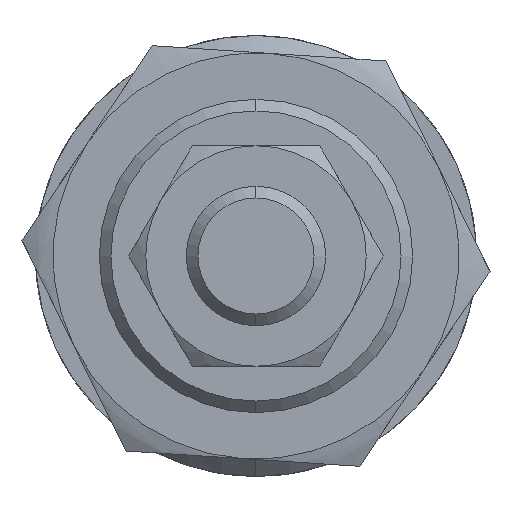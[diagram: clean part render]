
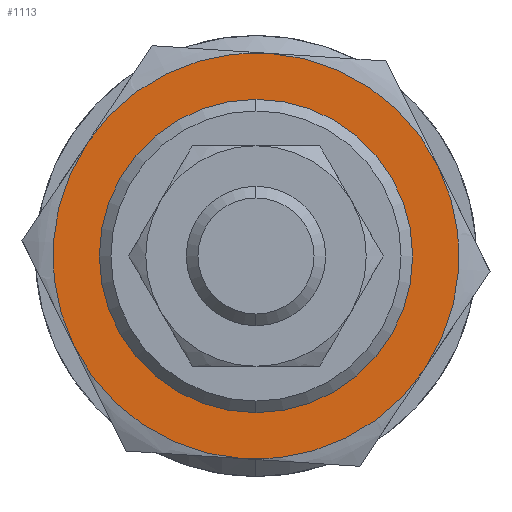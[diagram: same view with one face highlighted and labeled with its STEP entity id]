
A CAD part, left-side view. The second image highlights one B-rep face of the part: STEP entity #1113.
In plain terms, the highlighted planar face has unit normal (-1, 0, 0) as drawn and (0, 0, -1) by its records, which use the part's own axes.
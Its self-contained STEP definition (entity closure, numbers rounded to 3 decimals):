
#81 = CARTESIAN_POINT ( 'NONE',  ( 8.75, 15.155, -5. ) ) ;
#115 = EDGE_CURVE ( 'NONE', #3124, #3001, #226, .T. ) ;
#125 = EDGE_CURVE ( 'NONE', #407, #175, #2932, .T. ) ;
#172 = CIRCLE ( 'NONE', #2543, 17.5 ) ;
#175 = VERTEX_POINT ( 'NONE', #3014 ) ;
#192 = ORIENTED_EDGE ( 'NONE', *, *, #3244, .F. ) ;
#207 = CARTESIAN_POINT ( 'NONE',  ( 0., 0., -5. ) ) ;
#218 = CARTESIAN_POINT ( 'NONE',  ( 0., 0., -5. ) ) ;
#226 = CIRCLE ( 'NONE', #3256, 12.5 ) ;
#227 = AXIS2_PLACEMENT_3D ( 'NONE', #207, #1742, #1474 ) ;
#286 = AXIS2_PLACEMENT_3D ( 'NONE', #2225, #3306, #2538 ) ;
#344 = ORIENTED_EDGE ( 'NONE', *, *, #1718, .T. ) ;
#353 = CARTESIAN_POINT ( 'NONE',  ( 0., 0., -5. ) ) ;
#395 = AXIS2_PLACEMENT_3D ( 'NONE', #353, #1079, #1355 ) ;
#407 = VERTEX_POINT ( 'NONE', #81 ) ;
#420 = FACE_BOUND ( 'NONE', #438, .T. ) ;
#438 = EDGE_LOOP ( 'NONE', ( #344, #2810 ) ) ;
#474 = CARTESIAN_POINT ( 'NONE',  ( -8.75, -15.155, -5. ) ) ;
#484 = CIRCLE ( 'NONE', #286, 12.5 ) ;
#674 = DIRECTION ( 'NONE',  ( 0., 0., 1. ) ) ;
#765 = CIRCLE ( 'NONE', #1846, 17.5 ) ;
#807 = VERTEX_POINT ( 'NONE', #474 ) ;
#898 = CARTESIAN_POINT ( 'NONE',  ( 0., 0., -5. ) ) ;
#926 = DIRECTION ( 'NONE',  ( 1., 0., 0. ) ) ;
#1079 = DIRECTION ( 'NONE',  ( 0., 0., 1. ) ) ;
#1101 = EDGE_LOOP ( 'NONE', ( #3178, #3084, #2055, #2960, #192, #3040 ) ) ;
#1113 = ADVANCED_FACE ( 'NONE', ( #420, #1695 ), #1627, .F. ) ;
#1117 = CARTESIAN_POINT ( 'NONE',  ( 0., 0., -5. ) ) ;
#1177 = CARTESIAN_POINT ( 'NONE',  ( 8.75, -15.155, -5. ) ) ;
#1188 = EDGE_CURVE ( 'NONE', #3069, #807, #765, .T. ) ;
#1219 = CARTESIAN_POINT ( 'NONE',  ( -12.5, 0., -5. ) ) ;
#1303 = AXIS2_PLACEMENT_3D ( 'NONE', #218, #3341, #2311 ) ;
#1355 = DIRECTION ( 'NONE',  ( 1., 0., 0. ) ) ;
#1370 = VERTEX_POINT ( 'NONE', #1548 ) ;
#1447 = DIRECTION ( 'NONE',  ( 1., 0., 0. ) ) ;
#1474 = DIRECTION ( 'NONE',  ( 1., 0., 0. ) ) ;
#1475 = CARTESIAN_POINT ( 'NONE',  ( -17.5, 0., -5. ) ) ;
#1517 = DIRECTION ( 'NONE',  ( 1., 0., 0. ) ) ;
#1548 = CARTESIAN_POINT ( 'NONE',  ( 17.5, 0., -5. ) ) ;
#1549 = DIRECTION ( 'NONE',  ( 0., 0., 1. ) ) ;
#1627 = PLANE ( 'NONE',  #2259 ) ;
#1639 = CIRCLE ( 'NONE', #1303, 17.5 ) ;
#1668 = EDGE_CURVE ( 'NONE', #807, #2546, #3233, .T. ) ;
#1695 = FACE_OUTER_BOUND ( 'NONE', #1101, .T. ) ;
#1718 = EDGE_CURVE ( 'NONE', #3001, #3124, #484, .T. ) ;
#1742 = DIRECTION ( 'NONE',  ( 0., 0., 1. ) ) ;
#1754 = AXIS2_PLACEMENT_3D ( 'NONE', #3239, #674, #926 ) ;
#1839 = EDGE_CURVE ( 'NONE', #2546, #1370, #2383, .T. ) ;
#1846 = AXIS2_PLACEMENT_3D ( 'NONE', #2040, #2299, #1517 ) ;
#2040 = CARTESIAN_POINT ( 'NONE',  ( 0., 0., -5. ) ) ;
#2055 = ORIENTED_EDGE ( 'NONE', *, *, #1668, .F. ) ;
#2225 = CARTESIAN_POINT ( 'NONE',  ( 0., 0., -5. ) ) ;
#2259 = AXIS2_PLACEMENT_3D ( 'NONE', #1117, #2526, #1447 ) ;
#2299 = DIRECTION ( 'NONE',  ( 0., 0., 1. ) ) ;
#2311 = DIRECTION ( 'NONE',  ( 1., 0., 0. ) ) ;
#2328 = CARTESIAN_POINT ( 'NONE',  ( 0., 0., -5. ) ) ;
#2383 = CIRCLE ( 'NONE', #395, 17.5 ) ;
#2526 = DIRECTION ( 'NONE',  ( 0., 0., 1. ) ) ;
#2538 = DIRECTION ( 'NONE',  ( 1., 0., 0. ) ) ;
#2543 = AXIS2_PLACEMENT_3D ( 'NONE', #2328, #1549, #2622 ) ;
#2546 = VERTEX_POINT ( 'NONE', #1177 ) ;
#2622 = DIRECTION ( 'NONE',  ( 1., 0., 0. ) ) ;
#2719 = DIRECTION ( 'NONE',  ( 1., 0., 0. ) ) ;
#2810 = ORIENTED_EDGE ( 'NONE', *, *, #115, .T. ) ;
#2932 = CIRCLE ( 'NONE', #1754, 17.5 ) ;
#2960 = ORIENTED_EDGE ( 'NONE', *, *, #1188, .F. ) ;
#2983 = DIRECTION ( 'NONE',  ( 0., 0., 1. ) ) ;
#3001 = VERTEX_POINT ( 'NONE', #3206 ) ;
#3014 = CARTESIAN_POINT ( 'NONE',  ( -8.75, 15.155, -5. ) ) ;
#3040 = ORIENTED_EDGE ( 'NONE', *, *, #125, .F. ) ;
#3069 = VERTEX_POINT ( 'NONE', #1475 ) ;
#3084 = ORIENTED_EDGE ( 'NONE', *, *, #1839, .F. ) ;
#3124 = VERTEX_POINT ( 'NONE', #1219 ) ;
#3178 = ORIENTED_EDGE ( 'NONE', *, *, #3190, .F. ) ;
#3190 = EDGE_CURVE ( 'NONE', #1370, #407, #1639, .T. ) ;
#3206 = CARTESIAN_POINT ( 'NONE',  ( 12.5, 0., -5. ) ) ;
#3233 = CIRCLE ( 'NONE', #227, 17.5 ) ;
#3239 = CARTESIAN_POINT ( 'NONE',  ( 0., 0., -5. ) ) ;
#3244 = EDGE_CURVE ( 'NONE', #175, #3069, #172, .T. ) ;
#3256 = AXIS2_PLACEMENT_3D ( 'NONE', #898, #2983, #2719 ) ;
#3306 = DIRECTION ( 'NONE',  ( 0., 0., 1. ) ) ;
#3341 = DIRECTION ( 'NONE',  ( 0., 0., 1. ) ) ;
